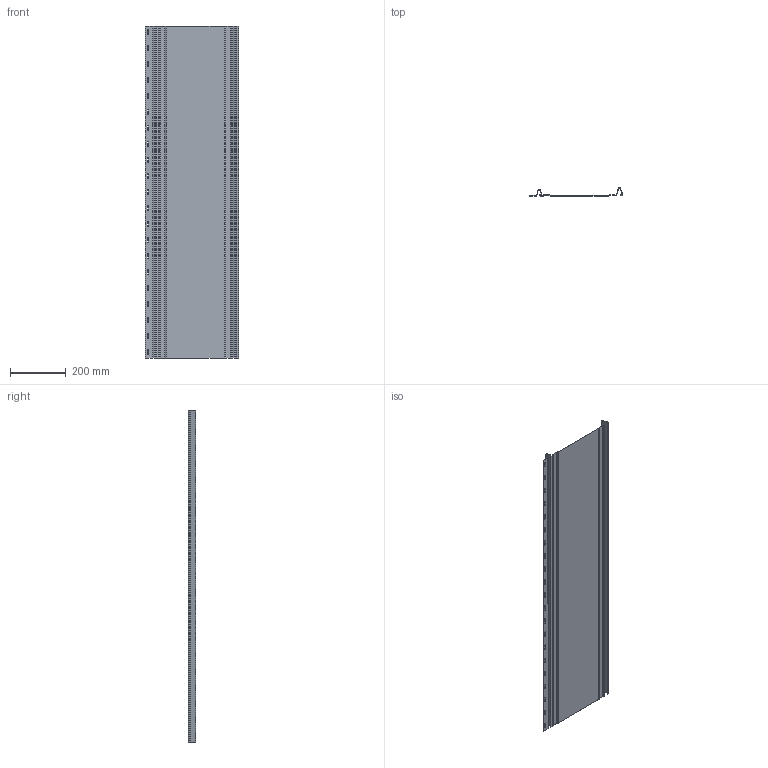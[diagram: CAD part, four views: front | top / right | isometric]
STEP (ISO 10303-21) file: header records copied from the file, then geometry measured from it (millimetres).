
FILE_DESCRIPTION(/* description */ (''),/* implementation_level */ '2;1');
FILE_NAME(/* name */ 'C:\Users\Utilisateur\Mac Metal\Site de communication - Documents\Ingénierie\1. Dessins techniques produits Mac\CAD _ REVIT Profiles drawing - MAC\MS 1 Modular\MS 1.2\MS1.2.stp',/* time_stamp */ '2023-01-30T10:08:48-05:00',/* author */ ('Utilisateur'),/* organization */ (''),/* preprocessor_version */ 'ST-DEVELOPER v18.1',/* originating_system */ 'Autodesk Inventor 2022',/* authorisation */ '');
FILE_SCHEMA (('AUTOMOTIVE_DESIGN { 1 0 10303 214 3 1 1 }'));
Length unit declared in the file: inch
Products named in the file (1): MS1.2
Bounding box: 332.75 x 26.99 x 1187.45 mm (x, y, z)
Volume: 255787.6 mm3; surface area: 1009131 mm2
Topology: 1 solids, 1 shells, 170 faces, 504 edges, 336 vertices
Faces by surface type: plane 88, cylinder 82
Entity records: 5859 total; most frequent: CARTESIAN_POINT 1011, DIRECTION 1010, ORIENTED_EDGE 1008, EDGE_CURVE 504, LINE 340, VECTOR 340, VERTEX_POINT 336, AXIS2_PLACEMENT_3D 335
